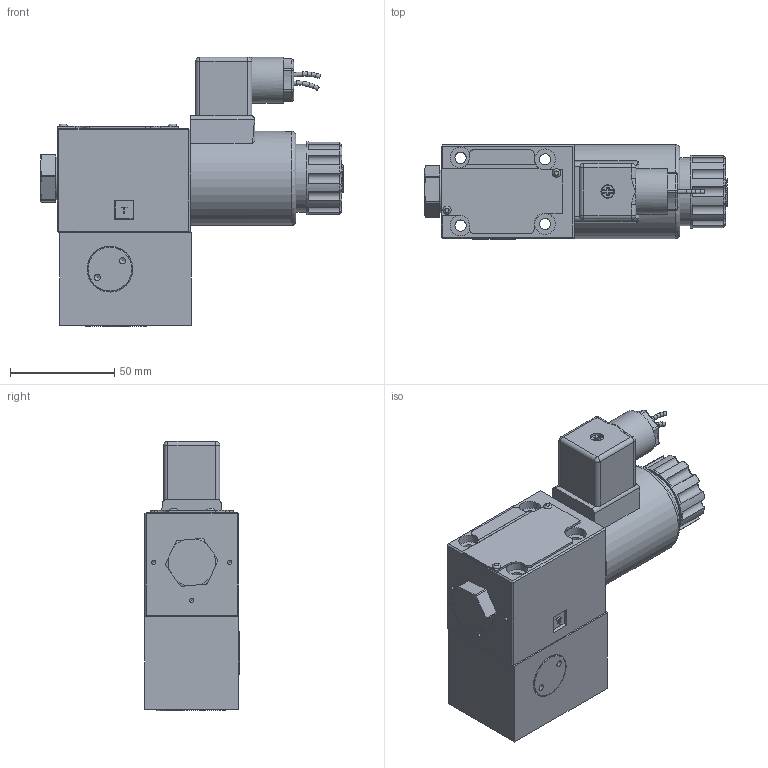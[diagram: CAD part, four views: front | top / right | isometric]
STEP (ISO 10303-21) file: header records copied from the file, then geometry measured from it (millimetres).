
FILE_DESCRIPTION(/* description */ (''),/* implementation_level */ '2;1');
FILE_NAME(/* name */ 'M-4SED6D电磁球阀.prt.stp',/* time_stamp */ '2022-03-30T19:36:19+08:00',/* author */ (''),/* organization */ (''),/* preprocessor_version */ 'ST-DEVELOPER v16.7',/* originating_system */ 'SIEMENS PLM Software NX 12.0',/* authorisation */ '');
FILE_SCHEMA (('AUTOMOTIVE_DESIGN { 1 0 10303 214 3 1 1 1 }'));
Products named in the file (1): M-4SED6D电磁球阀
Bounding box: 144.78 x 45.2 x 129.1 mm (x, y, z)
Volume: 397838.6 mm3; surface area: 89362.6 mm2
Topology: 21 solids, 33 shells, 722 faces, 1738 edges, 1103 vertices
Faces by surface type: cylinder 279, plane 278, torus 61, cone 60, bspline 25, sphere 14, extrusion 5
Full cylindrical faces by diameter (mm): 1.5 x1, 1.7 x1, 1.8 x4, 2 x8, 2.55 x20, 3 x43, 3.5 x1, 4 x1, 5 x4, 5.4 x5, 5.5 x4, 6 x3, 6.5 x1, 7 x1, 10 x4, 11 x1, 12.085 x1, 12.2 x6, 13.7 x1, 13.9 x1, 16 x1, 17.5 x1, 18 x1, 18.3 x1, 20.5 x3, 22 x2, 23 x2, 24 x1, 32.5 x1, 35 x1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
Entity records: 42692 total; most frequent: CARTESIAN_POINT 27225, DIRECTION 2865, ORIENTED_EDGE 2718, EDGE_CURVE 1359, AXIS2_PLACEMENT_3D 1145, VERTEX_POINT 935, EDGE_LOOP 844, ADVANCED_FACE 662
